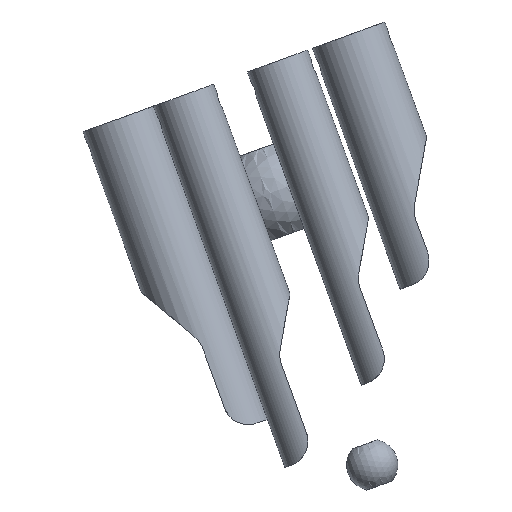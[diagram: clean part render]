
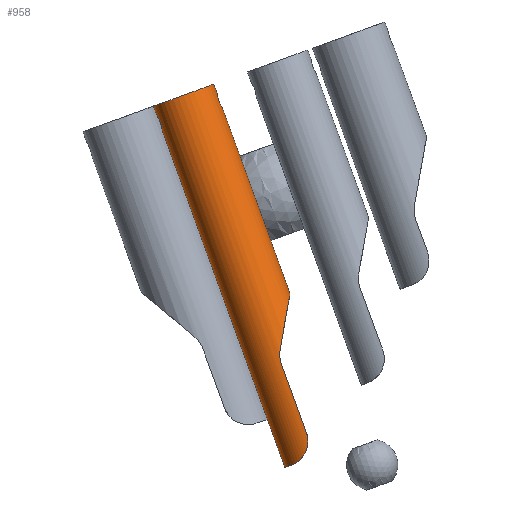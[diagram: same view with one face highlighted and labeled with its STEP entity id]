
A CAD part, left-side view. The second image highlights one B-rep face of the part: STEP entity #958.
In plain terms, the highlighted cylindrical face has radius 12.5 mm (diameter 25 mm), a full revolution.
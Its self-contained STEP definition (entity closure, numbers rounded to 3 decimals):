
#49=ELLIPSE('',#1087,25.,12.5);
#68=LINE('',#1625,#116);
#69=LINE('',#1648,#117);
#116=VECTOR('',#1218,1000.);
#117=VECTOR('',#1221,1000.);
#168=B_SPLINE_CURVE_WITH_KNOTS('',3,(#1613,#1614,#1615,#1616,#1617,#1618,
#1619,#1620,#1621,#1622,#1623),.UNSPECIFIED.,.T.,.F.,(1,1,1,1,1,1,1,1,1,
1,1,1,1,1,1),(-0.007,-0.005,-0.002,
0.,0.002,0.005,0.007,0.009,
0.012,0.014,0.016,0.019,
0.021,0.024,0.026),.UNSPECIFIED.);
#169=B_SPLINE_CURVE_WITH_KNOTS('',3,(#1628,#1629,#1630,#1631,#1632,#1633,
#1634),.UNSPECIFIED.,.F.,.F.,(4,1,1,1,4),(0.,0.004,0.009,
0.013,0.017),.UNSPECIFIED.);
#170=B_SPLINE_CURVE_WITH_KNOTS('',3,(#1638,#1639,#1640,#1641,#1642,#1643,
#1644,#1645,#1646),.UNSPECIFIED.,.F.,.F.,(4,1,1,1,1,1,4),(0.,0.002,
0.004,0.006,0.009,0.013,
0.017),.UNSPECIFIED.);
#171=B_SPLINE_CURVE_WITH_KNOTS('',3,(#1650,#1651,#1652,#1653,#1654),
 .UNSPECIFIED.,.F.,.F.,(4,1,4),(0.,0.003,0.005),
 .UNSPECIFIED.);
#172=B_SPLINE_CURVE_WITH_KNOTS('',3,(#1658,#1659,#1660,#1661),
 .UNSPECIFIED.,.F.,.F.,(4,4),(0.,0.005),.UNSPECIFIED.);
#173=B_SPLINE_CURVE_WITH_KNOTS('',3,(#1664,#1665,#1666,#1667,#1668,#1669,
#1670,#1671,#1672,#1673,#1674),.UNSPECIFIED.,.T.,.F.,(1,1,1,1,1,1,1,1,1,
1,1,1,1,1,1),(-0.007,-0.005,-0.002,
0.,0.002,0.005,0.007,0.009,
0.012,0.014,0.016,0.019,
0.021,0.024,0.026),.UNSPECIFIED.);
#269=ORIENTED_EDGE('',*,*,#495,.T.);
#270=ORIENTED_EDGE('',*,*,#496,.F.);
#271=ORIENTED_EDGE('',*,*,#497,.T.);
#272=ORIENTED_EDGE('',*,*,#498,.T.);
#273=ORIENTED_EDGE('',*,*,#499,.T.);
#274=ORIENTED_EDGE('',*,*,#500,.F.);
#275=ORIENTED_EDGE('',*,*,#501,.T.);
#276=ORIENTED_EDGE('',*,*,#502,.F.);
#277=ORIENTED_EDGE('',*,*,#503,.T.);
#278=ORIENTED_EDGE('',*,*,#504,.F.);
#279=ORIENTED_EDGE('',*,*,#505,.T.);
#495=EDGE_CURVE('',#615,#615,#168,.T.);
#496=EDGE_CURVE('',#616,#617,#68,.T.);
#497=EDGE_CURVE('',#616,#618,#169,.T.);
#498=EDGE_CURVE('',#618,#619,#684,.T.);
#499=EDGE_CURVE('',#619,#620,#170,.T.);
#500=EDGE_CURVE('',#621,#620,#69,.F.);
#501=EDGE_CURVE('',#621,#622,#171,.T.);
#502=EDGE_CURVE('',#623,#622,#49,.F.);
#503=EDGE_CURVE('',#623,#617,#172,.T.);
#504=EDGE_CURVE('',#624,#624,#685,.T.);
#505=EDGE_CURVE('',#625,#625,#173,.T.);
#615=VERTEX_POINT('',#1624);
#616=VERTEX_POINT('',#1626);
#617=VERTEX_POINT('',#1627);
#618=VERTEX_POINT('',#1635);
#619=VERTEX_POINT('',#1637);
#620=VERTEX_POINT('',#1647);
#621=VERTEX_POINT('',#1649);
#622=VERTEX_POINT('',#1655);
#623=VERTEX_POINT('',#1657);
#624=VERTEX_POINT('',#1663);
#625=VERTEX_POINT('',#1675);
#684=CIRCLE('',#1086,12.5);
#685=CIRCLE('',#1088,12.5);
#728=EDGE_LOOP('',(#269));
#729=EDGE_LOOP('',(#270,#271,#272,#273,#274,#275,#276,#277));
#730=EDGE_LOOP('',(#278));
#731=EDGE_LOOP('',(#279));
#832=FACE_BOUND('',#728,.T.);
#833=FACE_BOUND('',#729,.T.);
#834=FACE_BOUND('',#730,.T.);
#835=FACE_BOUND('',#731,.T.);
#919=CYLINDRICAL_SURFACE('',#1085,12.5);
#958=ADVANCED_FACE('',(#832,#833,#834,#835),#919,.T.);
#1085=AXIS2_PLACEMENT_3D('',#1612,#1216,#1217);
#1086=AXIS2_PLACEMENT_3D('',#1636,#1219,#1220);
#1087=AXIS2_PLACEMENT_3D('',#1656,#1222,#1223);
#1088=AXIS2_PLACEMENT_3D('',#1662,#1224,#1225);
#1216=DIRECTION('',(0.,0.342,0.94));
#1217=DIRECTION('',(0.,-0.94,0.342));
#1218=DIRECTION('',(0.,0.342,0.94));
#1219=DIRECTION('',(0.,0.342,0.94));
#1220=DIRECTION('',(-1.,0.,0.));
#1221=DIRECTION('',(0.,0.342,0.94));
#1222=DIRECTION('',(0.,0.985,0.174));
#1223=DIRECTION('',(0.,-0.174,0.985));
#1224=DIRECTION('',(0.,0.342,0.94));
#1225=DIRECTION('',(-1.,0.,0.));
#1612=CARTESIAN_POINT('',(14.497,18.165,-166.238));
#1613=CARTESIAN_POINT('',(16.271,54.425,-30.251));
#1614=CARTESIAN_POINT('',(13.749,54.16,-30.61));
#1615=CARTESIAN_POINT('',(11.683,55.005,-29.352));
#1616=CARTESIAN_POINT('',(11.257,55.987,-27.035));
#1617=CARTESIAN_POINT('',(12.726,56.349,-24.964));
#1618=CARTESIAN_POINT('',(15.243,56.377,-24.522));
#1619=CARTESIAN_POINT('',(17.309,56.216,-26.023));
#1620=CARTESIAN_POINT('',(17.737,55.477,-28.435));
#1621=CARTESIAN_POINT('',(16.271,54.425,-30.251));
#1622=CARTESIAN_POINT('',(13.749,54.16,-30.61));
#1623=CARTESIAN_POINT('',(11.683,55.005,-29.352));
#1624=CARTESIAN_POINT('',(13.825,54.345,-30.341));
#1625=CARTESIAN_POINT('',(26.997,18.165,-166.238));
#1626=CARTESIAN_POINT('',(26.997,21.586,-156.841));
#1627=CARTESIAN_POINT('',(26.997,31.396,-129.886));
#1628=CARTESIAN_POINT('',(26.997,21.586,-156.841));
#1629=CARTESIAN_POINT('',(26.997,21.09,-158.203));
#1630=CARTESIAN_POINT('',(27.019,20.704,-161.098));
#1631=CARTESIAN_POINT('',(26.719,21.996,-165.316));
#1632=CARTESIAN_POINT('',(25.164,24.796,-168.414));
#1633=CARTESIAN_POINT('',(23.156,26.746,-169.361));
#1634=CARTESIAN_POINT('',(21.997,27.562,-169.659));
#1635=CARTESIAN_POINT('',(21.997,27.562,-169.659));
#1636=CARTESIAN_POINT('',(14.497,18.165,-166.238));
#1637=CARTESIAN_POINT('',(6.997,27.562,-169.659));
#1638=CARTESIAN_POINT('',(6.997,27.562,-169.659));
#1639=CARTESIAN_POINT('',(6.419,27.155,-169.51));
#1640=CARTESIAN_POINT('',(5.354,26.279,-169.133));
#1641=CARTESIAN_POINT('',(4.021,24.82,-168.208));
#1642=CARTESIAN_POINT('',(3.056,23.413,-166.898));
#1643=CARTESIAN_POINT('',(2.234,21.794,-164.634));
#1644=CARTESIAN_POINT('',(1.972,20.701,-161.108));
#1645=CARTESIAN_POINT('',(1.997,21.09,-158.203));
#1646=CARTESIAN_POINT('',(1.997,21.586,-156.841));
#1647=CARTESIAN_POINT('',(1.997,21.586,-156.841));
#1648=CARTESIAN_POINT('',(1.997,18.165,-166.238));
#1649=CARTESIAN_POINT('',(1.997,31.396,-129.886));
#1650=CARTESIAN_POINT('',(1.997,31.396,-129.886));
#1651=CARTESIAN_POINT('',(1.997,31.697,-129.06));
#1652=CARTESIAN_POINT('',(1.994,32.073,-127.365));
#1653=CARTESIAN_POINT('',(2.022,32.,-125.594));
#1654=CARTESIAN_POINT('',(2.069,31.848,-124.73));
#1655=CARTESIAN_POINT('',(2.069,31.848,-124.73));
#1656=CARTESIAN_POINT('',(14.497,32.313,-127.368));
#1657=CARTESIAN_POINT('',(26.925,31.848,-124.73));
#1658=CARTESIAN_POINT('',(26.925,31.848,-124.73));
#1659=CARTESIAN_POINT('',(27.02,32.153,-126.459));
#1660=CARTESIAN_POINT('',(26.997,31.998,-128.234));
#1661=CARTESIAN_POINT('',(26.997,31.396,-129.886));
#1662=CARTESIAN_POINT('',(14.497,69.468,-25.284));
#1663=CARTESIAN_POINT('',(1.997,69.468,-25.284));
#1664=CARTESIAN_POINT('',(11.31,78.11,-36.883));
#1665=CARTESIAN_POINT('',(12.904,77.792,-38.869));
#1666=CARTESIAN_POINT('',(15.446,77.775,-39.147));
#1667=CARTESIAN_POINT('',(17.414,77.965,-37.524));
#1668=CARTESIAN_POINT('',(17.684,78.757,-35.106));
#1669=CARTESIAN_POINT('',(16.091,79.787,-33.385));
#1670=CARTESIAN_POINT('',(13.553,79.955,-33.158));
#1671=CARTESIAN_POINT('',(11.579,79.056,-34.528));
#1672=CARTESIAN_POINT('',(11.31,78.11,-36.883));
#1673=CARTESIAN_POINT('',(12.904,77.792,-38.869));
#1674=CARTESIAN_POINT('',(15.446,77.775,-39.147));
#1675=CARTESIAN_POINT('',(13.062,77.842,-38.585));
